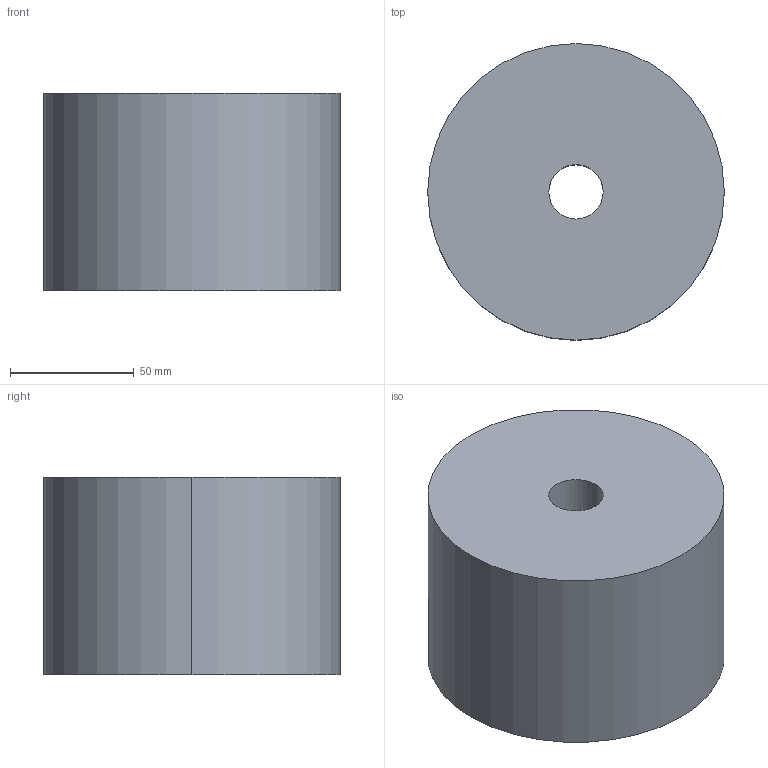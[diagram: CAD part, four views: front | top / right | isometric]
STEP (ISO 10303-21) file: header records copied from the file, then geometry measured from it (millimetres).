
FILE_DESCRIPTION(/* description */ (''),/* implementation_level */ '2;1');
FILE_NAME(/* name */ '3d_pa120-80_04903_r00.stp',/* time_stamp */ '2011-01-10T14:11:58+09:00',/* author */ ('MISUMI'),/* organization */ (''),/* preprocessor_version */ 'ST-DEVELOPER v11',/* originating_system */ 'UGS - NX 5.0',/* authorisation */ '');
FILE_SCHEMA (('CONFIG_CONTROL_DESIGN'));
Length unit declared in the file: millimetre
Products named in the file (1): 3d_pa120-80_04903_r00
Bounding box: 120 x 120 x 80 mm (x, y, z)
Volume: 874368.1 mm3; surface area: 57547.7 mm2
Topology: 1 solids, 1 shells, 6 faces, 12 edges, 8 vertices
Faces by surface type: cylinder 4, plane 2
Entity records: 254 total; most frequent: DIRECTION 34, CARTESIAN_POINT 27, ORIENTED_EDGE 24, AXIS2_PLACEMENT_3D 15, EDGE_CURVE 12, EDGE_LOOP 8, VERTEX_POINT 8, CIRCLE 8
